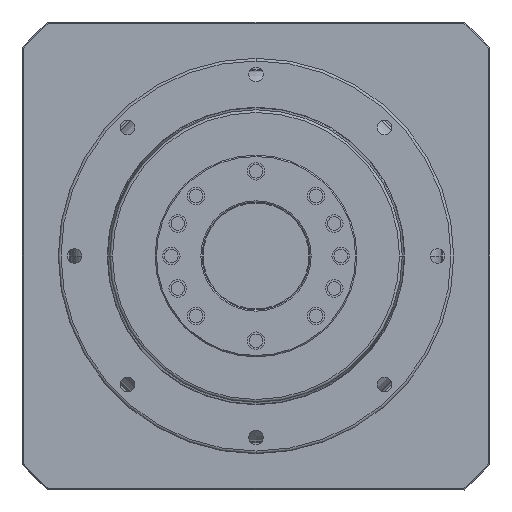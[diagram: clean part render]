
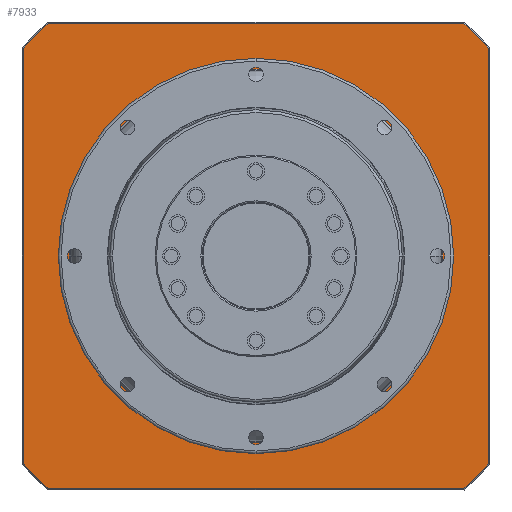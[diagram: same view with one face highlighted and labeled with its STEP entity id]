
A CAD part, left-side view. The second image highlights one B-rep face of the part: STEP entity #7933.
In plain terms, the highlighted planar face has unit normal (-1, 0, 0) as drawn and (0, 0, -1) by its records, which use the part's own axes.
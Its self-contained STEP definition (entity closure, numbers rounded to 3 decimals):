
#6199=CARTESIAN_POINT('',(0.,0.,
2.5));
#6200=DIRECTION('',(0.,0.,-1.));
#6201=DIRECTION('',(0.,-1.,0.));
#6202=AXIS2_PLACEMENT_3D('',#6199,#6200,#6201);
#6204=CARTESIAN_POINT('',(0.,0.,
2.5));
#6205=DIRECTION('',(0.,0.,-1.));
#6206=DIRECTION('',(0.,1.,0.));
#6207=AXIS2_PLACEMENT_3D('',#6204,#6205,#6206);
#6209=CARTESIAN_POINT('',(0.,0.,2.5));
#6210=DIRECTION('',(0.,0.,1.));
#6211=DIRECTION('',(-0.746,-0.666,0.));
#6212=AXIS2_PLACEMENT_3D('',#6209,#6210,#6211);
#6214=DIRECTION('',(1.,0.,0.));
#6215=VECTOR('',#6214,154.58);
#6216=CARTESIAN_POINT('',(-77.29,-86.5,
2.5));
#6217=LINE('',#6216,#6215);
#6218=CARTESIAN_POINT('',(0.,0.,2.5));
#6219=DIRECTION('',(0.,0.,1.));
#6220=DIRECTION('',(0.666,-0.746,0.));
#6221=AXIS2_PLACEMENT_3D('',#6218,#6219,#6220);
#6223=DIRECTION('',(0.,1.,0.));
#6224=VECTOR('',#6223,154.58);
#6225=CARTESIAN_POINT('',(86.5,-77.29,2.5));
#6226=LINE('',#6225,#6224);
#6227=CARTESIAN_POINT('',(0.,0.,2.5));
#6228=DIRECTION('',(0.,0.,1.));
#6229=DIRECTION('',(0.746,0.666,0.));
#6230=AXIS2_PLACEMENT_3D('',#6227,#6228,#6229);
#6232=DIRECTION('',(-1.,0.,0.));
#6233=VECTOR('',#6232,154.58);
#6234=CARTESIAN_POINT('',(77.29,86.5,2.5));
#6235=LINE('',#6234,#6233);
#6236=CARTESIAN_POINT('',(0.,0.,2.5));
#6237=DIRECTION('',(0.,0.,1.));
#6238=DIRECTION('',(-0.666,0.746,0.));
#6239=AXIS2_PLACEMENT_3D('',#6236,#6237,#6238);
#6241=DIRECTION('',(0.,-1.,0.));
#6242=VECTOR('',#6241,154.58);
#6243=CARTESIAN_POINT('',(-86.5,77.29,2.5));
#6244=LINE('',#6243,#6242);
#7440=CARTESIAN_POINT('',(0.,-69.5,2.5));
#7441=CARTESIAN_POINT('',(0.,69.5,
2.5));
#7442=VERTEX_POINT('',#7440);
#7443=VERTEX_POINT('',#7441);
#7664=CARTESIAN_POINT('',(-86.5,-77.29,2.5));
#7665=CARTESIAN_POINT('',(-77.29,-86.5,2.5));
#7666=VERTEX_POINT('',#7664);
#7667=VERTEX_POINT('',#7665);
#7672=CARTESIAN_POINT('',(77.29,-86.5,2.5));
#7673=VERTEX_POINT('',#7672);
#7676=CARTESIAN_POINT('',(86.5,-77.29,2.5));
#7677=VERTEX_POINT('',#7676);
#7680=CARTESIAN_POINT('',(86.5,77.29,2.5));
#7681=VERTEX_POINT('',#7680);
#7684=CARTESIAN_POINT('',(77.29,86.5,2.5));
#7685=VERTEX_POINT('',#7684);
#7688=CARTESIAN_POINT('',(-77.29,86.5,2.5));
#7689=VERTEX_POINT('',#7688);
#7694=CARTESIAN_POINT('',(-86.5,77.29,2.5));
#7695=VERTEX_POINT('',#7694);
#7905=CARTESIAN_POINT('',(0.,0.,2.5));
#7906=DIRECTION('',(0.,0.,1.));
#7907=DIRECTION('',(0.,1.,0.));
#7908=AXIS2_PLACEMENT_3D('',#7905,#7906,#7907);
#7909=PLANE('',#7908);
#7911=ORIENTED_EDGE('',*,*,#7910,.T.);
#7913=ORIENTED_EDGE('',*,*,#7912,.T.);
#7915=ORIENTED_EDGE('',*,*,#7914,.T.);
#7917=ORIENTED_EDGE('',*,*,#7916,.T.);
#7919=ORIENTED_EDGE('',*,*,#7918,.T.);
#7921=ORIENTED_EDGE('',*,*,#7920,.T.);
#7923=ORIENTED_EDGE('',*,*,#7922,.T.);
#7925=ORIENTED_EDGE('',*,*,#7924,.T.);
#7926=EDGE_LOOP('',(#7911,#7913,#7915,#7917,#7919,#7921,#7923,#7925));
#7927=FACE_OUTER_BOUND('',#7926,.F.);
#7929=ORIENTED_EDGE('',*,*,#7928,.T.);
#7930=ORIENTED_EDGE('',*,*,#7895,.T.);
#7931=EDGE_LOOP('',(#7929,#7930));
#7932=FACE_BOUND('',#7931,.F.);
#7933=ADVANCED_FACE('',(#7927,#7932),#7909,.F.);
#6203=CIRCLE('',#6202,69.5);
#6208=CIRCLE('',#6207,69.5);
#6213=CIRCLE('',#6212,116.);
#6222=CIRCLE('',#6221,116.);
#6231=CIRCLE('',#6230,116.);
#6240=CIRCLE('',#6239,116.);
#7895=EDGE_CURVE('',#7443,#7442,#6208,.T.);
#7910=EDGE_CURVE('',#7666,#7667,#6213,.T.);
#7912=EDGE_CURVE('',#7667,#7673,#6217,.T.);
#7914=EDGE_CURVE('',#7673,#7677,#6222,.T.);
#7916=EDGE_CURVE('',#7677,#7681,#6226,.T.);
#7918=EDGE_CURVE('',#7681,#7685,#6231,.T.);
#7920=EDGE_CURVE('',#7685,#7689,#6235,.T.);
#7922=EDGE_CURVE('',#7689,#7695,#6240,.T.);
#7924=EDGE_CURVE('',#7695,#7666,#6244,.T.);
#7928=EDGE_CURVE('',#7442,#7443,#6203,.T.);
